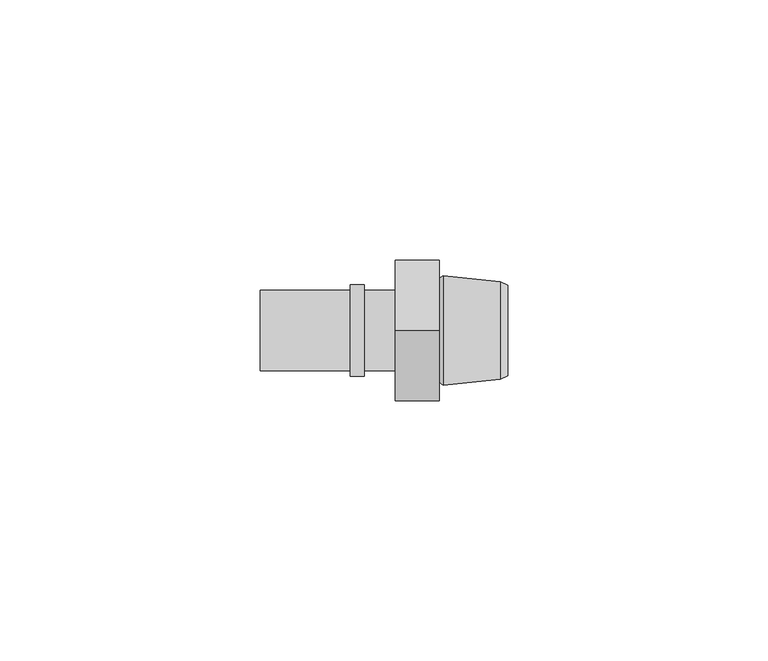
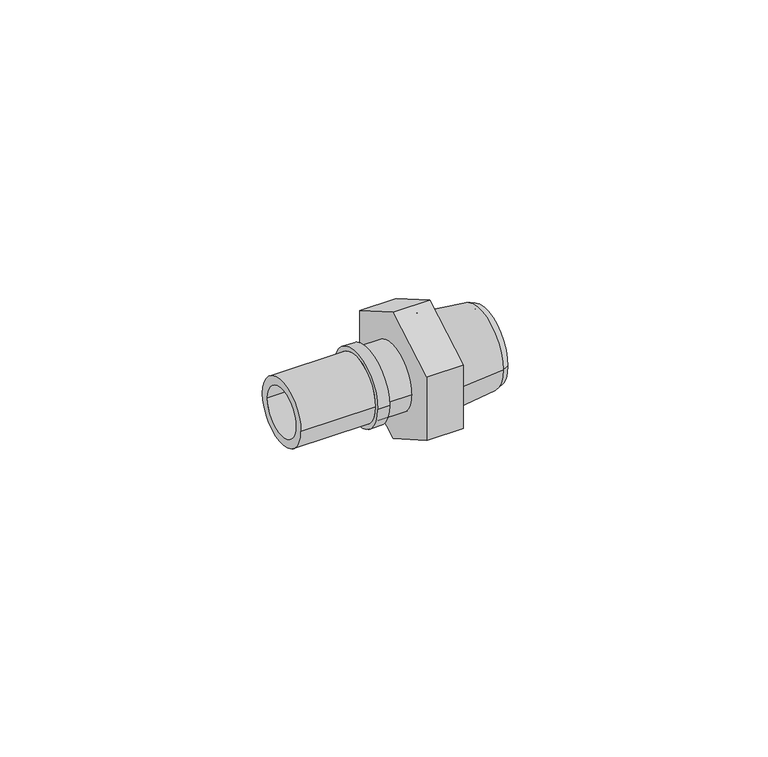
"""IFC4 building model written with IfcOpenShell, lengths in millimetres: pipe fitting geometry, FASTLOC_Adapter_LX, with external thread : FSL A C external PL."""

from ifc_helpers import new_model, si_unit, frame, origin, place, context, project, spatial, polyline, circle_curve, outline, extrude, source, transform, mapped, element, save
from ifc_brep_helpers import plane_surface, cylinder_surface, revolved_surface, advanced_brep


def pipe_fitting_274f672a(model_context):
    return source(origin(), model_context, "Body", "SolidModel", [
        extrude(outline(polyline([(-13.5, 7.7942286), (0.0, 15.5884573), (13.5, 7.7942286), (13.5, -7.7942286), (0.0, -15.5884573), (-13.5, -7.7942286), (-13.5, 7.7942286)])), frame((0.0, 0.0, 0.0), z_axis=(1.0, 0.0, 0.0), x_axis=(0.0, 1.0, 0.0)), (0.0, 0.0, 1.0), 8.4),
        advanced_brep(
        [(9.5032803, 7.5, 0.0), (9.5032803, -7.5, 0.0), (21.6, -7.5, 0.0), (21.6, 7.5, 0.0), (8.4, 6.3967197, 0.0), (8.4, -6.3967197, 0.0), (9.1406902, 10.55, 0.0), (9.1406902, -10.55, 0.0), (8.4, -10.0, 0.0), (8.4, 10.0, 0.0), (20.1000007, 9.35, 0.0), (20.1000007, -9.35, 0.0), (21.6, 8.725, 0.0), (21.6, -8.725, 0.0)],
        [
            (0, 1, circle_curve(frame((9.5032803, 0.0, 0.0), z_axis=(-1.0, 0.0, 0.0), x_axis=(0.0, -1.0, 0.0)), 7.5)),
            (1, 2),
            (2, 3, circle_curve(frame((21.6, 0.0, 0.0), z_axis=(1.0, 0.0, 0.0), x_axis=(0.0, -1.0, 0.0)), 7.5)),
            (3, 0),
            (4, 5, circle_curve(frame((8.4, 0.0, 0.0), z_axis=(-1.0, 0.0, 0.0), x_axis=(0.0, -1.0, 0.0)), 6.3967197)),
            (5, 1),
            (0, 4),
            (6, 7, circle_curve(frame((9.1406902, 0.0, 0.0), z_axis=(-1.0, 0.0, 0.0), x_axis=(0.0, -1.0, 0.0)), 10.55)),
            (7, 8),
            (8, 9, circle_curve(frame((8.4, 0.0, 0.0), z_axis=(1.0, 0.0, 0.0), x_axis=(0.0, -1.0, 0.0)), 10.0)),
            (9, 6),
            (10, 11, circle_curve(frame((20.1000007, 0.0, 0.0), z_axis=(-1.0, 0.0, 0.0), x_axis=(0.0, -1.0, 0.0)), 9.35)),
            (11, 7),
            (6, 10),
            (12, 13, circle_curve(frame((21.6, 0.0, 0.0), z_axis=(-1.0, 0.0, 0.0), x_axis=(0.0, -1.0, 0.0)), 8.725)),
            (13, 11),
            (10, 12),
            (1, 0, circle_curve(frame((9.5032803, 0.0, 0.0), z_axis=(-1.0, 0.0, 0.0), x_axis=(0.0, 1.0, 0.0)), 7.5)),
            (3, 2, circle_curve(frame((21.6, 0.0, 0.0), z_axis=(1.0, 0.0, 0.0), x_axis=(0.0, 1.0, 0.0)), 7.5)),
            (5, 4, circle_curve(frame((8.4, 0.0, 0.0), z_axis=(-1.0, 0.0, 0.0), x_axis=(0.0, 1.0, 0.0)), 6.3967197)),
            (8, 9, circle_curve(frame((8.4, 0.0, 0.0), z_axis=(-1.0, 0.0, 0.0), x_axis=(0.0, 1.0, 0.0)), 10.0)),
            (7, 6, circle_curve(frame((9.1406902, 0.0, 0.0), z_axis=(-1.0, 0.0, 0.0), x_axis=(0.0, 1.0, 0.0)), 10.55)),
            (11, 10, circle_curve(frame((20.1000007, 0.0, 0.0), z_axis=(-1.0, 0.0, 0.0), x_axis=(0.0, 1.0, 0.0)), 9.35)),
            (13, 12, circle_curve(frame((21.6, 0.0, 0.0), z_axis=(-1.0, 0.0, 0.0), x_axis=(0.0, 1.0, 0.0)), 8.725)),
        ],
        [
            revolved_surface(polyline([(21.6, -7.5, 0.0), (9.5032803, -7.5, 0.0)]), (0.0, 0.0, 0.0), (1.0, 0.0, 0.0)),
            revolved_surface(polyline([(9.5032803, -7.5, 0.0), (8.4, -6.3967197, 0.0)]), (0.0, 0.0, 0.0), (1.0, 0.0, 0.0)),
            revolved_surface(polyline([(8.4, -10.0, 0.0), (9.1406902, -10.55, 0.0)]), (0.0, 0.0, 0.0), (1.0, 0.0, 0.0)),
            revolved_surface(polyline([(9.1406902, -10.55, 0.0), (20.1000007, -9.35, 0.0)]), (0.0, 0.0, 0.0), (1.0, 0.0, 0.0)),
            revolved_surface(polyline([(20.1000007, -9.35, 0.0), (21.6, -8.725, 0.0)]), (0.0, 0.0, 0.0), (1.0, 0.0, 0.0)),
            revolved_surface(polyline([(21.6, 7.5, 0.0), (9.5032803, 7.5, 0.0)]), (0.0, 0.0, 0.0), (1.0, 0.0, 0.0)),
            revolved_surface(polyline([(9.5032803, 7.5, 0.0), (8.4, 6.3967197, 0.0)]), (0.0, 0.0, 0.0), (1.0, 0.0, 0.0)),
            plane_surface(frame((8.4, 0.0, 0.0), z_axis=(-1.0, 0.0, 0.0), x_axis=(0.0, 1.0, 0.0))),
            revolved_surface(polyline([(8.4, 10.0, 0.0), (9.1406902, 10.55, 0.0)]), (0.0, 0.0, 0.0), (1.0, 0.0, 0.0)),
            revolved_surface(polyline([(9.1406902, 10.55, 0.0), (20.1000007, 9.35, 0.0)]), (0.0, 0.0, 0.0), (1.0, 0.0, 0.0)),
            revolved_surface(polyline([(20.1000007, 9.35, 0.0), (21.6, 8.725, 0.0)]), (0.0, 0.0, 0.0), (1.0, 0.0, 0.0)),
            plane_surface(frame((21.6, 0.0, 0.0), z_axis=(1.0, 0.0, 0.0), x_axis=(0.0, 1.0, 0.0))),
        ],
        [
            (0, [[1, 2, 3, 4]]),
            (1, [[5, 6, -1, 7]]),
            (2, [[8, 9, 10, 11]]),
            (3, [[12, 13, -8, 14]]),
            (4, [[15, 16, -12, 17]]),
            (5, [[18, -4, 19, -2]]),
            (6, [[20, -7, -18, -6]]),
            (7, [[21, -10], [-20, -5]]),
            (8, [[22, -11, -21, -9]]),
            (9, [[23, -14, -22, -13]]),
            (10, [[24, -17, -23, -16]]),
            (11, [[-24, -15], [-19, -3]]),
        ],
    ),
        advanced_brep(
        [(-8.7, 7.75, 0.0), (-8.7, -7.75, 0.0), (-26.0, -7.75, 0.0), (-26.0, 7.75, 0.0), (-6.0, 8.8, 0.0), (-6.0, -8.8, 0.0), (-8.7, -8.8, 0.0), (-8.7, 8.8, 0.0), (0.0, 7.75, 0.0), (0.0, -7.75, 0.0), (-6.0, -7.75, 0.0), (-6.0, 7.75, 0.0), (-26.0, 5.75, 0.0), (-26.0, -5.75, 0.0), (0.0, -5.75, 0.0), (0.0, 5.75, 0.0)],
        [
            (0, 1, circle_curve(frame((-8.7, 0.0, 0.0), z_axis=(-1.0, 0.0, 0.0), x_axis=(0.0, -1.0, 0.0)), 7.75)),
            (1, 2),
            (2, 3, circle_curve(frame((-26.0, 0.0, 0.0), z_axis=(1.0, 0.0, 0.0), x_axis=(0.0, -1.0, 0.0)), 7.75)),
            (3, 0),
            (4, 5, circle_curve(frame((-6.0, 0.0, 0.0), z_axis=(-1.0, 0.0, 0.0), x_axis=(0.0, -1.0, 0.0)), 8.8)),
            (5, 6),
            (6, 7, circle_curve(frame((-8.7, 0.0, 0.0), z_axis=(1.0, 0.0, 0.0), x_axis=(0.0, -1.0, 0.0)), 8.8)),
            (7, 4),
            (8, 9, circle_curve(frame((0.0, 0.0, 0.0), z_axis=(-1.0, 0.0, 0.0), x_axis=(0.0, -1.0, 0.0)), 7.75)),
            (9, 10),
            (10, 11, circle_curve(frame((-6.0, 0.0, 0.0), z_axis=(1.0, 0.0, 0.0), x_axis=(0.0, -1.0, 0.0)), 7.75)),
            (11, 8),
            (12, 13, circle_curve(frame((-26.0, 0.0, 0.0), z_axis=(-1.0, 0.0, 0.0), x_axis=(0.0, -1.0, 0.0)), 5.75)),
            (13, 14),
            (14, 15, circle_curve(frame((0.0, 0.0, 0.0), z_axis=(1.0, 0.0, 0.0), x_axis=(0.0, -1.0, 0.0)), 5.75)),
            (15, 12),
            (2, 3, circle_curve(frame((-26.0, 0.0, 0.0), z_axis=(-1.0, 0.0, 0.0), x_axis=(0.0, 1.0, 0.0)), 7.75)),
            (12, 13, circle_curve(frame((-26.0, 0.0, 0.0), z_axis=(1.0, 0.0, 0.0), x_axis=(0.0, 1.0, 0.0)), 5.75)),
            (1, 0, circle_curve(frame((-8.7, 0.0, 0.0), z_axis=(-1.0, 0.0, 0.0), x_axis=(0.0, 1.0, 0.0)), 7.75)),
            (6, 7, circle_curve(frame((-8.7, 0.0, 0.0), z_axis=(-1.0, 0.0, 0.0), x_axis=(0.0, 1.0, 0.0)), 8.8)),
            (5, 4, circle_curve(frame((-6.0, 0.0, 0.0), z_axis=(-1.0, 0.0, 0.0), x_axis=(0.0, 1.0, 0.0)), 8.8)),
            (10, 11, circle_curve(frame((-6.0, 0.0, 0.0), z_axis=(-1.0, 0.0, 0.0), x_axis=(0.0, 1.0, 0.0)), 7.75)),
            (9, 8, circle_curve(frame((0.0, 0.0, 0.0), z_axis=(-1.0, 0.0, 0.0), x_axis=(0.0, 1.0, 0.0)), 7.75)),
            (14, 15, circle_curve(frame((0.0, 0.0, 0.0), z_axis=(-1.0, 0.0, 0.0), x_axis=(0.0, 1.0, 0.0)), 5.75)),
        ],
        [
            cylinder_surface(frame((0.0, 0.0, 0.0), z_axis=(1.0, 0.0, 0.0), x_axis=(0.0, -1.0, 0.0)), 7.75),
            cylinder_surface(frame((0.0, 0.0, 0.0), z_axis=(1.0, 0.0, 0.0), x_axis=(0.0, -1.0, 0.0)), 8.8),
            revolved_surface(polyline([(0.0, -5.75, 0.0), (-26.0, -5.75, 0.0)]), (0.0, 0.0, 0.0), (1.0, 0.0, 0.0)),
            plane_surface(frame((-26.0, 0.0, 0.0), z_axis=(-1.0, 0.0, 0.0), x_axis=(0.0, 1.0, 0.0))),
            cylinder_surface(frame((0.0, 0.0, 0.0), z_axis=(1.0, 0.0, 0.0), x_axis=(0.0, 1.0, 0.0)), 7.75),
            plane_surface(frame((-8.7, 0.0, 0.0), z_axis=(-1.0, 0.0, 0.0), x_axis=(0.0, 1.0, 0.0))),
            cylinder_surface(frame((0.0, 0.0, 0.0), z_axis=(1.0, 0.0, 0.0), x_axis=(0.0, 1.0, 0.0)), 8.8),
            plane_surface(frame((-6.0, 0.0, 0.0), z_axis=(1.0, 0.0, 0.0), x_axis=(0.0, 1.0, 0.0))),
            plane_surface(frame((0.0, 0.0, 0.0), z_axis=(1.0, 0.0, 0.0), x_axis=(0.0, 1.0, 0.0))),
            revolved_surface(polyline([(0.0, 5.75, 0.0), (-26.0, 5.75, 0.0)]), (0.0, 0.0, 0.0), (1.0, 0.0, 0.0)),
        ],
        [
            (0, [[1, 2, 3, 4]]),
            (1, [[5, 6, 7, 8]]),
            (0, [[9, 10, 11, 12]]),
            (2, [[13, 14, 15, 16]]),
            (3, [[17, -3], [18, -13]]),
            (4, [[19, -4, -17, -2]]),
            (5, [[20, -7], [-19, -1]]),
            (6, [[21, -8, -20, -6]]),
            (7, [[-21, -5], [22, -11]]),
            (4, [[23, -12, -22, -10]]),
            (8, [[-23, -9], [24, -15]]),
            (9, [[-18, -16, -24, -14]]),
        ],
    ),
    ])


if __name__ == "__main__":
    model = new_model("IFC4")
    model_context = context("Model", 3, world=origin())
    ifc_project = project(units=[si_unit("LENGTHUNIT", "METRE", prefix="MILLI")], contexts=[model_context])
    site = spatial("IfcSite", under=ifc_project)
    building = spatial("IfcBuilding", under=site)
    placement = place(None, origin())
    pipe_fitting_shape = pipe_fitting_274f672a(model_context)
    element("IfcPipeFitting", 1, ObjectType="FASTLOC_Adapter_LX, with external thread : FSL A C external PL", at=placement, inside=building, context=model_context, shape_type="MappedRepresentation", body=[
        mapped(pipe_fitting_shape, transform((0.0, 0.0, 0.0), x_axis=(1.0, 0.0, 0.0), y_axis=(0.0, 1.0, 0.0), z_axis=(0.0, 0.0, 1.0))),
    ])
    save(model, "model.ifc")
